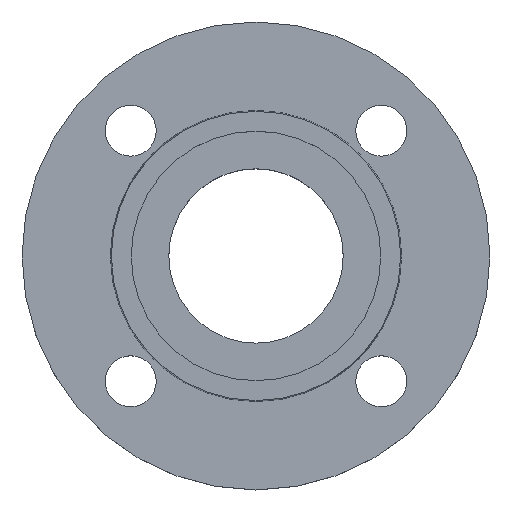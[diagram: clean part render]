
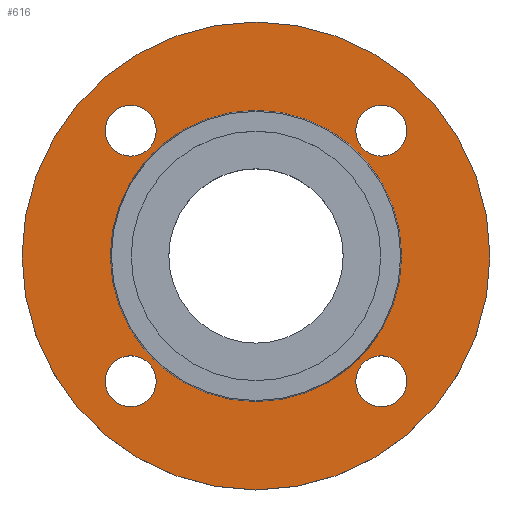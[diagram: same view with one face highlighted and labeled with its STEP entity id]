
A CAD part, top view. The second image highlights one B-rep face of the part: STEP entity #616.
In plain terms, the highlighted planar face has unit normal (0, 0, 1).
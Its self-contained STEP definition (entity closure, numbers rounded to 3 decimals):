
#5 = AXIS2_PLACEMENT_3D ( 'NONE', #787, #789, #790 ) ;
#23 = DIRECTION ( 'NONE',  ( 1., 0., 0. ) ) ;
#24 = DIRECTION ( 'NONE',  ( 0., 0., -1. ) ) ;
#26 = CARTESIAN_POINT ( 'NONE',  ( -44.194, -44.194, -2. ) ) ;
#37 = EDGE_CURVE ( 'NONE', #622, #631, #352, .T. ) ;
#56 = DIRECTION ( 'NONE',  ( 1., 0., 0. ) ) ;
#57 = DIRECTION ( 'NONE',  ( 0., 0., -1. ) ) ;
#59 = CARTESIAN_POINT ( 'NONE',  ( -44.194, 44.194, -2. ) ) ;
#79 = CARTESIAN_POINT ( 'NONE',  ( 35.194, 44.194, -2. ) ) ;
#84 = DIRECTION ( 'NONE',  ( 0., 0., -1. ) ) ;
#96 = CIRCLE ( 'NONE', #97, 9. ) ;
#97 = AXIS2_PLACEMENT_3D ( 'NONE', #59, #57, #56 ) ;
#112 = CARTESIAN_POINT ( 'NONE',  ( -35.194, -44.194, -2. ) ) ;
#114 = CARTESIAN_POINT ( 'NONE',  ( -82.5, 0., -2. ) ) ;
#120 = CARTESIAN_POINT ( 'NONE',  ( 53.194, -44.194, -2. ) ) ;
#121 = CARTESIAN_POINT ( 'NONE',  ( 53.194, 44.194, -2. ) ) ;
#123 = CARTESIAN_POINT ( 'NONE',  ( 51.353, 0., -2. ) ) ;
#126 = CARTESIAN_POINT ( 'NONE',  ( -35.194, 44.194, -2. ) ) ;
#129 = DIRECTION ( 'NONE',  ( 1., 0., 0. ) ) ;
#130 = DIRECTION ( 'NONE',  ( 0., 0., 1. ) ) ;
#132 = CARTESIAN_POINT ( 'NONE',  ( 51.353, 0., -2. ) ) ;
#133 = DIRECTION ( 'NONE',  ( 0., 0., -1. ) ) ;
#134 = PLANE ( 'NONE',  #367 ) ;
#135 = FACE_BOUND ( 'NONE', #651, .T. ) ;
#136 = FACE_BOUND ( 'NONE', #646, .T. ) ;
#137 = CIRCLE ( 'NONE', #429, 82.5 ) ;
#139 = FACE_OUTER_BOUND ( 'NONE', #641, .T. ) ;
#140 = FACE_BOUND ( 'NONE', #628, .T. ) ;
#143 = FACE_BOUND ( 'NONE', #647, .T. ) ;
#148 = FACE_BOUND ( 'NONE', #675, .T. ) ;
#152 = CARTESIAN_POINT ( 'NONE',  ( -53.194, 44.194, -2. ) ) ;
#159 = CARTESIAN_POINT ( 'NONE',  ( -53.194, -44.194, -2. ) ) ;
#165 = EDGE_CURVE ( 'NONE', #466, #625, #233, .T. ) ;
#196 = CIRCLE ( 'NONE', #5, 9. ) ;
#215 = AXIS2_PLACEMENT_3D ( 'NONE', #745, #746, #747 ) ;
#218 = CARTESIAN_POINT ( 'NONE',  ( 35.194, -44.194, -2. ) ) ;
#229 = CARTESIAN_POINT ( 'NONE',  ( 82.5, 0., -2. ) ) ;
#231 = CARTESIAN_POINT ( 'NONE',  ( 44.194, 44.194, -2. ) ) ;
#233 = CIRCLE ( 'NONE', #215, 9. ) ;
#248 = DIRECTION ( 'NONE',  ( 1., 0., 0. ) ) ;
#255 = CIRCLE ( 'NONE', #430, 9. ) ;
#264 = AXIS2_PLACEMENT_3D ( 'NONE', #691, #696, #697 ) ;
#270 = AXIS2_PLACEMENT_3D ( 'NONE', #411, #383, #384 ) ;
#276 = EDGE_CURVE ( 'NONE', #552, #618, #196, .T. ) ;
#282 = EDGE_CURVE ( 'NONE', #625, #466, #529, .T. ) ;
#284 = EDGE_CURVE ( 'NONE', #624, #667, #255, .T. ) ;
#289 = CIRCLE ( 'NONE', #309, 51.353 ) ;
#303 = CARTESIAN_POINT ( 'NONE',  ( 0., 0., -2. ) ) ;
#304 = DIRECTION ( 'NONE',  ( 0., 0., -1. ) ) ;
#305 = DIRECTION ( 'NONE',  ( -1., 0., 0. ) ) ;
#309 = AXIS2_PLACEMENT_3D ( 'NONE', #303, #304, #305 ) ;
#311 = EDGE_CURVE ( 'NONE', #631, #622, #289, .T. ) ;
#321 = CARTESIAN_POINT ( 'NONE',  ( 44.194, 44.194, -2. ) ) ;
#322 = DIRECTION ( 'NONE',  ( 0., 0., -1. ) ) ;
#324 = DIRECTION ( 'NONE',  ( 1., 0., 0. ) ) ;
#339 = CIRCLE ( 'NONE', #503, 9. ) ;
#349 = CARTESIAN_POINT ( 'NONE',  ( 0., 0., -2. ) ) ;
#352 = CIRCLE ( 'NONE', #264, 51.353 ) ;
#356 = CIRCLE ( 'NONE', #421, 9. ) ;
#365 = DIRECTION ( 'NONE',  ( 1., 0., 0. ) ) ;
#367 = AXIS2_PLACEMENT_3D ( 'NONE', #132, #130, #129 ) ;
#374 = EDGE_CURVE ( 'NONE', #667, #624, #339, .T. ) ;
#383 = DIRECTION ( 'NONE',  ( 0., 0., -1. ) ) ;
#384 = DIRECTION ( 'NONE',  ( -1., 0., 0. ) ) ;
#394 = EDGE_CURVE ( 'NONE', #607, #634, #137, .T. ) ;
#395 = EDGE_CURVE ( 'NONE', #609, #636, #428, .T. ) ;
#406 = DIRECTION ( 'NONE',  ( -1., 0., 0. ) ) ;
#407 = CARTESIAN_POINT ( 'NONE',  ( -44.194, -44.194, -2. ) ) ;
#408 = DIRECTION ( 'NONE',  ( 0., 0., -1. ) ) ;
#411 = CARTESIAN_POINT ( 'NONE',  ( 0., 0., -2. ) ) ;
#421 = AXIS2_PLACEMENT_3D ( 'NONE', #26, #24, #23 ) ;
#427 = AXIS2_PLACEMENT_3D ( 'NONE', #407, #408, #365 ) ;
#428 = CIRCLE ( 'NONE', #427, 9. ) ;
#429 = AXIS2_PLACEMENT_3D ( 'NONE', #349, #133, #406 ) ;
#430 = AXIS2_PLACEMENT_3D ( 'NONE', #231, #84, #248 ) ;
#466 = VERTEX_POINT ( 'NONE', #218 ) ;
#503 = AXIS2_PLACEMENT_3D ( 'NONE', #321, #322, #324 ) ;
#507 = ORIENTED_EDGE ( 'NONE', *, *, #282, .T. ) ;
#509 = ORIENTED_EDGE ( 'NONE', *, *, #165, .T. ) ;
#512 = ORIENTED_EDGE ( 'NONE', *, *, #783, .T. ) ;
#513 = AXIS2_PLACEMENT_3D ( 'NONE', #798, #800, #802 ) ;
#514 = ORIENTED_EDGE ( 'NONE', *, *, #395, .T. ) ;
#515 = ORIENTED_EDGE ( 'NONE', *, *, #700, .T. ) ;
#517 = ORIENTED_EDGE ( 'NONE', *, *, #276, .T. ) ;
#518 = ORIENTED_EDGE ( 'NONE', *, *, #284, .T. ) ;
#520 = ORIENTED_EDGE ( 'NONE', *, *, #374, .T. ) ;
#521 = ORIENTED_EDGE ( 'NONE', *, *, #311, .T. ) ;
#522 = ORIENTED_EDGE ( 'NONE', *, *, #37, .T. ) ;
#523 = ORIENTED_EDGE ( 'NONE', *, *, #394, .F. ) ;
#524 = ORIENTED_EDGE ( 'NONE', *, *, #600, .F. ) ;
#529 = CIRCLE ( 'NONE', #513, 9. ) ;
#552 = VERTEX_POINT ( 'NONE', #152 ) ;
#600 = EDGE_CURVE ( 'NONE', #634, #607, #603, .T. ) ;
#603 = CIRCLE ( 'NONE', #270, 82.5 ) ;
#607 = VERTEX_POINT ( 'NONE', #229 ) ;
#609 = VERTEX_POINT ( 'NONE', #159 ) ;
#616 = ADVANCED_FACE ( 'NONE', ( #148, #135, #143, #140, #136, #139 ), #134, .T. ) ;
#618 = VERTEX_POINT ( 'NONE', #126 ) ;
#622 = VERTEX_POINT ( 'NONE', #123 ) ;
#624 = VERTEX_POINT ( 'NONE', #121 ) ;
#625 = VERTEX_POINT ( 'NONE', #120 ) ;
#628 = EDGE_LOOP ( 'NONE', ( #518, #520 ) ) ;
#631 = VERTEX_POINT ( 'NONE', #693 ) ;
#634 = VERTEX_POINT ( 'NONE', #114 ) ;
#636 = VERTEX_POINT ( 'NONE', #112 ) ;
#641 = EDGE_LOOP ( 'NONE', ( #523, #524 ) ) ;
#646 = EDGE_LOOP ( 'NONE', ( #521, #522 ) ) ;
#647 = EDGE_LOOP ( 'NONE', ( #515, #517 ) ) ;
#651 = EDGE_LOOP ( 'NONE', ( #512, #514 ) ) ;
#667 = VERTEX_POINT ( 'NONE', #79 ) ;
#675 = EDGE_LOOP ( 'NONE', ( #507, #509 ) ) ;
#691 = CARTESIAN_POINT ( 'NONE',  ( 0., 0., -2. ) ) ;
#693 = CARTESIAN_POINT ( 'NONE',  ( -51.353, 0., -2. ) ) ;
#696 = DIRECTION ( 'NONE',  ( 0., 0., -1. ) ) ;
#697 = DIRECTION ( 'NONE',  ( -1., 0., 0. ) ) ;
#700 = EDGE_CURVE ( 'NONE', #618, #552, #96, .T. ) ;
#745 = CARTESIAN_POINT ( 'NONE',  ( 44.194, -44.194, -2. ) ) ;
#746 = DIRECTION ( 'NONE',  ( 0., 0., -1. ) ) ;
#747 = DIRECTION ( 'NONE',  ( 1., 0., 0. ) ) ;
#783 = EDGE_CURVE ( 'NONE', #636, #609, #356, .T. ) ;
#787 = CARTESIAN_POINT ( 'NONE',  ( -44.194, 44.194, -2. ) ) ;
#789 = DIRECTION ( 'NONE',  ( 0., 0., -1. ) ) ;
#790 = DIRECTION ( 'NONE',  ( 1., 0., 0. ) ) ;
#798 = CARTESIAN_POINT ( 'NONE',  ( 44.194, -44.194, -2. ) ) ;
#800 = DIRECTION ( 'NONE',  ( 0., 0., -1. ) ) ;
#802 = DIRECTION ( 'NONE',  ( 1., 0., 0. ) ) ;
